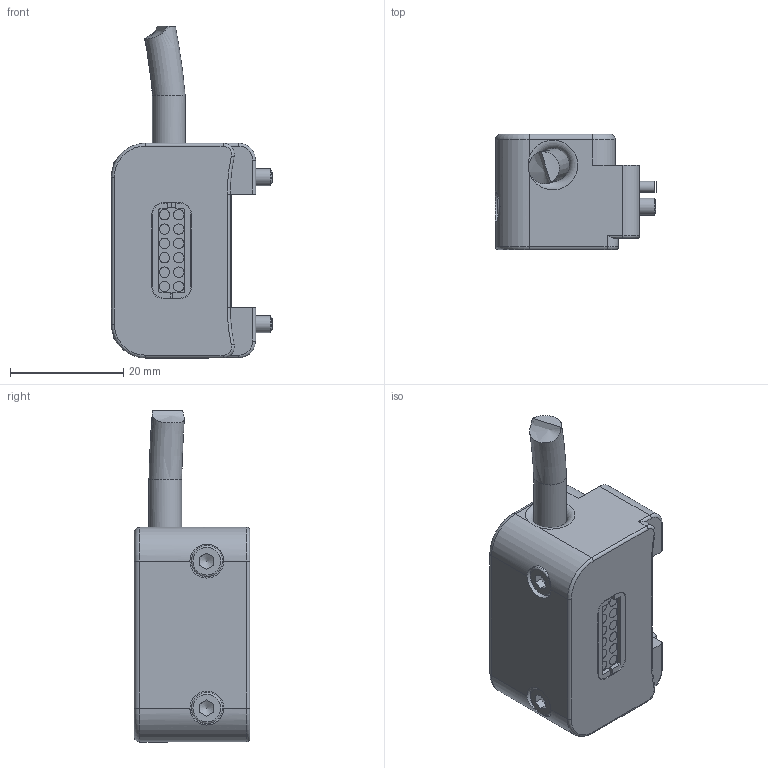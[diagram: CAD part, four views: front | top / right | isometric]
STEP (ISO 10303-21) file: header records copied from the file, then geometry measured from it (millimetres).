
FILE_DESCRIPTION(/* description */ (''),/* implementation_level */ '2;1');
FILE_NAME(/* name */ 'T:\CAD\Standard\SHW\SEK-P\SEK100\SEK100-1FE12\G-SEK100-O-1FE12.stp',/* time_stamp */ '2021-04-19T08:34:31+02:00',/* author */ ('vbednarz'),/* organization */ (''),/* preprocessor_version */ 'ST-DEVELOPER v17',/* originating_system */ 'Autodesk Inventor 2018',/* authorisation */ '');
FILE_SCHEMA (('AUTOMOTIVE_DESIGN { 1 0 10303 214 3 1 1 }'));
Length unit declared in the file: millimetre
Products named in the file (1): G-SEK100-O-1FE12
Bounding box: 28.5 x 20.45 x 58.75 mm (x, y, z)
Volume: 15161.5 mm3; surface area: 9553.8 mm2
Topology: 5 solids, 5 shells, 460 faces, 1123 edges, 708 vertices
Faces by surface type: plane 181, cylinder 150, torus 69, bspline 41, cone 19
Full cylindrical faces by diameter (mm): 1 x2, 1.35 x12, 1.8 x2, 1.83 x12, 2 x2, 2.02 x2, 3 x2, 3.4 x2, 4.5 x4, 5 x4, 5.5 x2, 5.8 x2, 6 x2
Entity records: 15574 total; most frequent: CARTESIAN_POINT 4141, DIRECTION 2391, ORIENTED_EDGE 2222, EDGE_CURVE 1111, AXIS2_PLACEMENT_3D 943, VERTEX_POINT 708, CIRCLE 523, EDGE_LOOP 513
